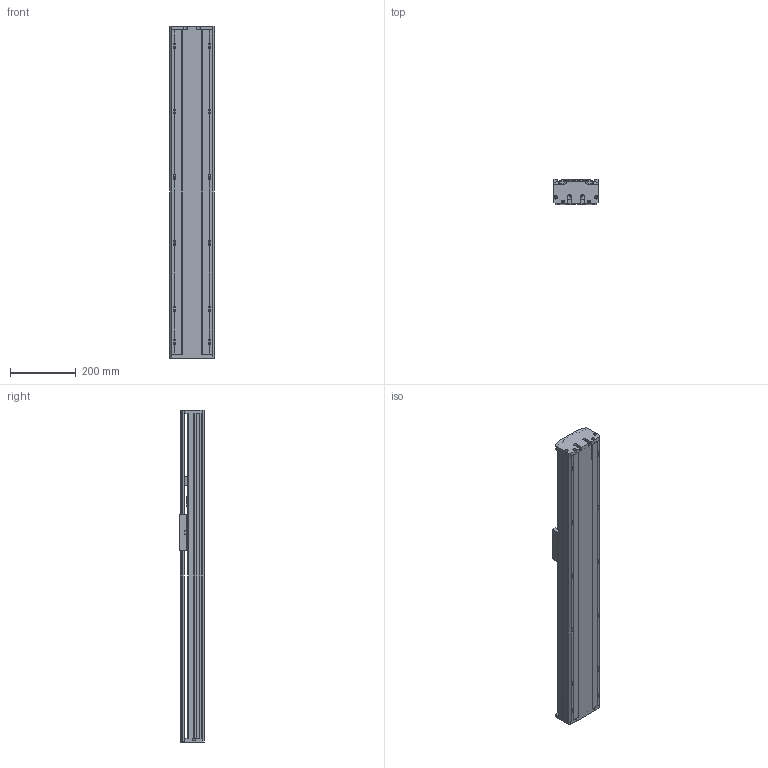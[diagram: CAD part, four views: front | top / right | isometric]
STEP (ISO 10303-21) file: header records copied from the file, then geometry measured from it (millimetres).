
FILE_DESCRIPTION(/* description */ (''),/* implementation_level */ '2;1');
FILE_NAME(/* name */ 'TKA136-FI-550_asm1.stp',/* time_stamp */ '2016-05-07T10:29:34+08:00',/* author */ (''),/* organization */ (''),/* preprocessor_version */ 'ST-DEVELOPER v15',/* originating_system */ 'SIEMENS PLM Software NX 8.5',/* authorisation */ '');
FILE_SCHEMA (('AUTOMOTIVE_DESIGN { 1 0 10303 214 3 1 1 1 }'));
Length unit declared in the file: millimetre
Products named in the file (3): 100-02; 100-01; TKA136-FI-550_asm1
Assembly tree (2 placements, depth 2):
  TKA136-FI-550_asm1
    100-01
    100-02
Bounding box: 136 x 75 x 1009 mm (x, y, z)
Volume: 3179685.4 mm3; surface area: 1187732.1 mm2
Topology: 2 solids, 12 shells, 955 faces, 2750 edges, 1803 vertices
Faces by surface type: cylinder 469, plane 436, cone 50
Full cylindrical faces by diameter (mm): 2.5 x4, 3.3 x8, 4.2 x8, 4.5 x20, 5 x10, 5.5 x14, 8 x20, 10 x9, 10.5 x6, 11.6 x1, 12 x8, 15 x3, 16 x5, 24 x3, 26 x1, 28 x1, 46 x1
Entity records: 33341 total; most frequent: CARTESIAN_POINT 8697, ORIENTED_EDGE 5056, DIRECTION 5042, EDGE_CURVE 2528, AXIS2_PLACEMENT_3D 1872, VERTEX_POINT 1755, LINE 1298, VECTOR 1298
